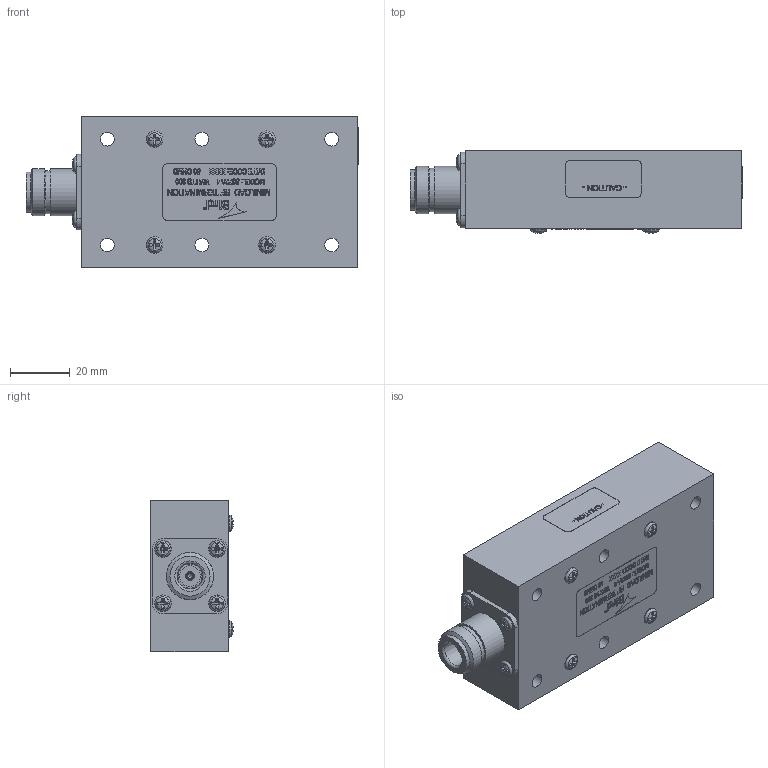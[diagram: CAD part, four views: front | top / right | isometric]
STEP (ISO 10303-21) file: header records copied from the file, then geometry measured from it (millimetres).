
FILE_DESCRIPTION(/* description */ ('Unknown'),/* implementation_level */ '2;1');
FILE_NAME(/* name */ '8072A-1_STEP',/* time_stamp */ '2023-12-04T09:25:00-05:00',/* author */ ('Unknown'),/* organization */ ('Unknown'),/* preprocessor_version */ 'ST-DEVELOPER v18.102',/* originating_system */ 'Solid Edge',/* authorisation */ 'Unknown');
FILE_SCHEMA (('AUTOMOTIVE_DESIGN {1 0 10303 214 3 1 1}'));
Length unit declared in the file: millimetre
Products named in the file (1): 8072A-1
Bounding box: 111.61 x 27.77 x 50.88 mm (x, y, z)
Volume: 124961.9 mm3; surface area: 20820.4 mm2
Topology: 1 solids, 1 shells, 1238 faces, 3181 edges, 2115 vertices
Faces by surface type: plane 952, bspline 158, cylinder 95, cone 17, sphere 8, torus 8
Full cylindrical faces by diameter (mm): 0.422 x1, 2.972 x1, 4.597 x6, 7.01 x2, 9.982 x1, 13.487 x1, 14.529 x1, 15.845 x1, 15.875 x1
Entity records: 52181 total; most frequent: CARTESIAN_POINT 15145, ORIENTED_EDGE 6176, DIRECTION 4936, EDGE_CURVE 3088, VERTEX_POINT 2093, LINE 2034, VECTOR 2034, FACE_BOUND 1491
